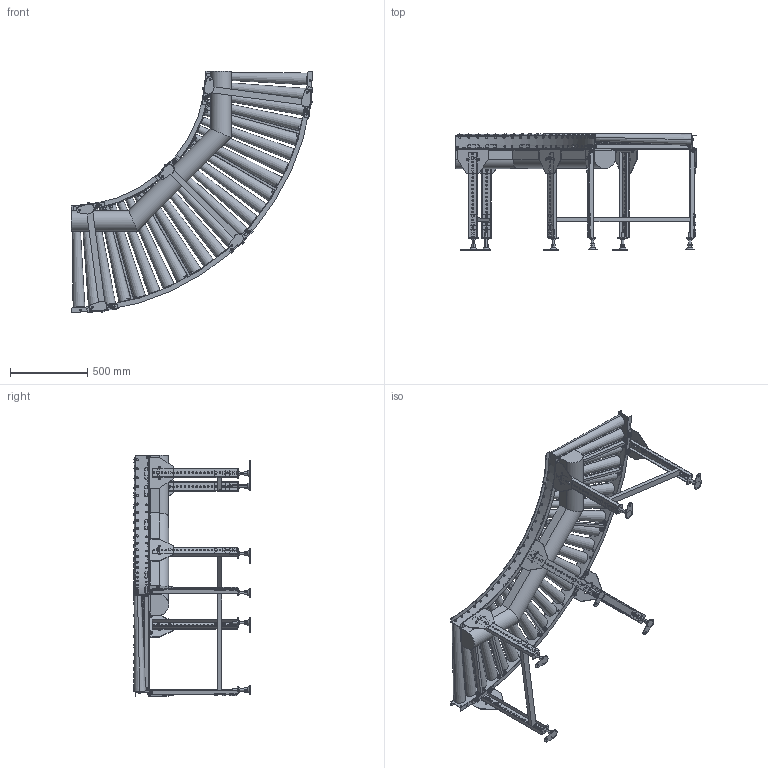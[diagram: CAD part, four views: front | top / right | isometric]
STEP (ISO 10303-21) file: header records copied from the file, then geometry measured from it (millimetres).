
FILE_DESCRIPTION (( 'STEP AP214' ), '1' );
FILE_NAME ('MCD50C9-90-630-75.STEP', '2022-08-01T07:05:23', ( '' ), ( '' ), 'SwSTEP 2.0', 'SolidWorks 2017', '' );
FILE_SCHEMA (( 'AUTOMOTIVE_DESIGN' ));
Length unit declared in the file: millimetre
Products named in the file (1): MCD50C9-90-630-75
Bounding box: 1560.37 x 750 x 1560.37 mm (x, y, z)
Volume: 74299889.6 mm3; surface area: 6745481.7 mm2
Topology: 28 solids, 58 shells, 3903 faces, 9300 edges, 5866 vertices
Faces by surface type: plane 2752, cylinder 1091, cone 60
Entity records: 168476 total; most frequent: CARTESIAN_POINT 32670, DIRECTION 19596, ORIENTED_EDGE 18600, EDGE_CURVE 9300, AXIS2_PLACEMENT_3D 6826, VECTOR 5944, LINE 5944, VERTEX_POINT 5866
